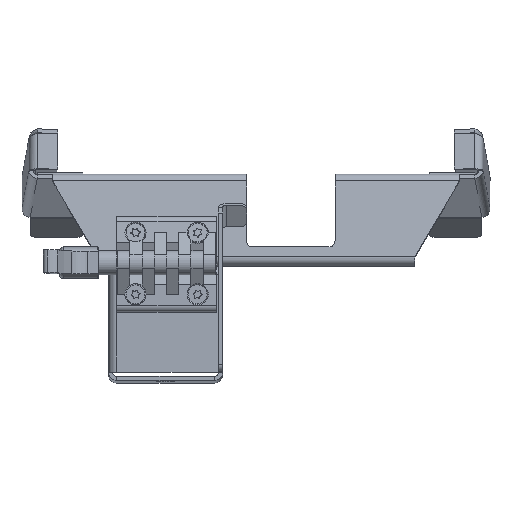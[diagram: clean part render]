
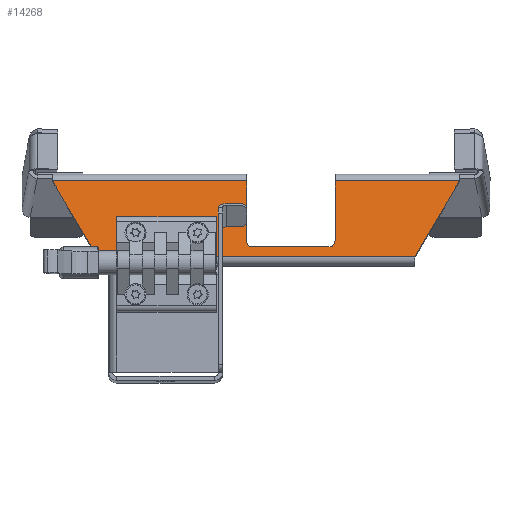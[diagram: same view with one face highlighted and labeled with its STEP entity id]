
A CAD part, front view. The second image highlights one B-rep face of the part: STEP entity #14268.
In plain terms, the highlighted planar face has unit normal (0, -0.982, 0.191) as drawn and (0, -1, 0) by its records, which use the part's own axes.
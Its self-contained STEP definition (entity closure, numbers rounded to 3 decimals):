
#89 = VECTOR ( 'NONE', #14945, 1000. ) ;
#120 = VECTOR ( 'NONE', #5712, 1000. ) ;
#525 = ORIENTED_EDGE ( 'NONE', *, *, #13689, .T. ) ;
#1126 = EDGE_LOOP ( 'NONE', ( #15097, #5215 ) ) ;
#1369 = DIRECTION ( 'NONE',  ( 0., 0., 1. ) ) ;
#1480 = CARTESIAN_POINT ( 'NONE',  ( 146.35, -4., -34. ) ) ;
#1645 = CARTESIAN_POINT ( 'NONE',  ( 143.35, -4., -34. ) ) ;
#1754 = VERTEX_POINT ( 'NONE', #9172 ) ;
#1827 = FACE_OUTER_BOUND ( 'NONE', #11394, .T. ) ;
#2160 = VECTOR ( 'NONE', #11169, 1000. ) ;
#2315 = CIRCLE ( 'NONE', #14091, 3. ) ;
#2394 = DIRECTION ( 'NONE',  ( 1., 0., 0. ) ) ;
#2611 = ORIENTED_EDGE ( 'NONE', *, *, #18063, .T. ) ;
#2631 = DIRECTION ( 'NONE',  ( 0., 0., 1. ) ) ;
#2757 = DIRECTION ( 'NONE',  ( 0., 1., 0. ) ) ;
#2795 = CARTESIAN_POINT ( 'NONE',  ( 0., -4., 0. ) ) ;
#2796 = LINE ( 'NONE', #7767, #120 ) ;
#2882 = DIRECTION ( 'NONE',  ( 0., 0., 1. ) ) ;
#2935 = CIRCLE ( 'NONE', #10791, 3.2 ) ;
#2983 = DIRECTION ( 'NONE',  ( 0., -1., 0. ) ) ;
#3008 = CARTESIAN_POINT ( 'NONE',  ( 78.8, -4., -32. ) ) ;
#3227 = DIRECTION ( 'NONE',  ( 0., 0., 1. ) ) ;
#3333 = CARTESIAN_POINT ( 'NONE',  ( 7.5, -4., -4. ) ) ;
#3394 = PLANE ( 'NONE',  #4426 ) ;
#3475 = CARTESIAN_POINT ( 'NONE',  ( 207.5, -4., -4. ) ) ;
#3478 = VECTOR ( 'NONE', #2394, 1000. ) ;
#3506 = AXIS2_PLACEMENT_3D ( 'NONE', #4633, #4439, #1369 ) ;
#3973 = VERTEX_POINT ( 'NONE', #8396 ) ;
#4104 = VERTEX_POINT ( 'NONE', #17893 ) ;
#4253 = CARTESIAN_POINT ( 'NONE',  ( 105.85, -4., -37. ) ) ;
#4328 = LINE ( 'NONE', #12755, #89 ) ;
#4426 = AXIS2_PLACEMENT_3D ( 'NONE', #2795, #2757, #2631 ) ;
#4439 = DIRECTION ( 'NONE',  ( 0., -1., 0. ) ) ;
#4489 = EDGE_CURVE ( 'NONE', #15004, #4629, #14701, .T. ) ;
#4562 = CARTESIAN_POINT ( 'NONE',  ( 146.35, -4., -37. ) ) ;
#4629 = VERTEX_POINT ( 'NONE', #13410 ) ;
#4633 = CARTESIAN_POINT ( 'NONE',  ( 48.3, -4., -32. ) ) ;
#4723 = FACE_BOUND ( 'NONE', #1126, .T. ) ;
#5074 = EDGE_CURVE ( 'NONE', #4629, #6862, #7514, .T. ) ;
#5088 = CIRCLE ( 'NONE', #3506, 3.2 ) ;
#5215 = ORIENTED_EDGE ( 'NONE', *, *, #12900, .F. ) ;
#5414 = VECTOR ( 'NONE', #18158, 1000. ) ;
#5536 = LINE ( 'NONE', #18476, #5414 ) ;
#5572 = DIRECTION ( 'NONE',  ( 0., 0., 1. ) ) ;
#5592 = CARTESIAN_POINT ( 'NONE',  ( 102.85, -4., -37. ) ) ;
#5610 = CIRCLE ( 'NONE', #6534, 3.2 ) ;
#5712 = DIRECTION ( 'NONE',  ( 1., 0., 0. ) ) ;
#6006 = CARTESIAN_POINT ( 'NONE',  ( 207.5, -4., -4. ) ) ;
#6375 = ORIENTED_EDGE ( 'NONE', *, *, #14259, .F. ) ;
#6437 = DIRECTION ( 'NONE',  ( 0., 0., 1. ) ) ;
#6534 = AXIS2_PLACEMENT_3D ( 'NONE', #3008, #2983, #2882 ) ;
#6552 = EDGE_LOOP ( 'NONE', ( #6375, #11058 ) ) ;
#6731 = CARTESIAN_POINT ( 'NONE',  ( 78.8, -4., -28.8 ) ) ;
#6862 = VERTEX_POINT ( 'NONE', #14458 ) ;
#7514 = LINE ( 'NONE', #5592, #12120 ) ;
#7767 = CARTESIAN_POINT ( 'NONE',  ( 102.85, -4., -37. ) ) ;
#7815 = VERTEX_POINT ( 'NONE', #1480 ) ;
#8183 = VERTEX_POINT ( 'NONE', #6731 ) ;
#8208 = DIRECTION ( 'NONE',  ( 0., 0., 1. ) ) ;
#8396 = CARTESIAN_POINT ( 'NONE',  ( 29.439, -4., -42. ) ) ;
#8513 = FACE_BOUND ( 'NONE', #6552, .T. ) ;
#8546 = CARTESIAN_POINT ( 'NONE',  ( 48.3, -4., -28.8 ) ) ;
#8721 = EDGE_CURVE ( 'NONE', #14691, #8183, #8952, .T. ) ;
#8752 = AXIS2_PLACEMENT_3D ( 'NONE', #10719, #11560, #9233 ) ;
#8952 = CIRCLE ( 'NONE', #8752, 3.2 ) ;
#9009 = DIRECTION ( 'NONE',  ( 0., 1., 0. ) ) ;
#9172 = CARTESIAN_POINT ( 'NONE',  ( 146.35, -4., -4. ) ) ;
#9232 = EDGE_CURVE ( 'NONE', #15004, #15777, #2796, .T. ) ;
#9233 = DIRECTION ( 'NONE',  ( 0., 0., 1. ) ) ;
#9366 = LINE ( 'NONE', #10302, #16499 ) ;
#10094 = ORIENTED_EDGE ( 'NONE', *, *, #9232, .F. ) ;
#10302 = CARTESIAN_POINT ( 'NONE',  ( 207.5, -4., -4. ) ) ;
#10317 = DIRECTION ( 'NONE',  ( 0., 0., 1. ) ) ;
#10347 = VERTEX_POINT ( 'NONE', #16833 ) ;
#10490 = ORIENTED_EDGE ( 'NONE', *, *, #14470, .F. ) ;
#10719 = CARTESIAN_POINT ( 'NONE',  ( 78.8, -4., -32. ) ) ;
#10761 = EDGE_CURVE ( 'NONE', #1754, #13730, #13835, .T. ) ;
#10791 = AXIS2_PLACEMENT_3D ( 'NONE', #14875, #15701, #6437 ) ;
#11058 = ORIENTED_EDGE ( 'NONE', *, *, #8721, .F. ) ;
#11169 = DIRECTION ( 'NONE',  ( 0.5, 0., 0.866 ) ) ;
#11308 = VERTEX_POINT ( 'NONE', #8546 ) ;
#11394 = EDGE_LOOP ( 'NONE', ( #10094, #14011, #15800, #10490, #14433, #525, #13161, #13480, #17571, #2611 ) ) ;
#11560 = DIRECTION ( 'NONE',  ( 0., -1., 0. ) ) ;
#12120 = VECTOR ( 'NONE', #5572, 1000. ) ;
#12223 = LINE ( 'NONE', #6006, #2160 ) ;
#12280 = AXIS2_PLACEMENT_3D ( 'NONE', #13444, #17490, #3227 ) ;
#12755 = CARTESIAN_POINT ( 'NONE',  ( 29.439, -4., -42. ) ) ;
#12900 = EDGE_CURVE ( 'NONE', #10347, #11308, #2935, .T. ) ;
#13161 = ORIENTED_EDGE ( 'NONE', *, *, #17068, .T. ) ;
#13410 = CARTESIAN_POINT ( 'NONE',  ( 102.85, -4., -34. ) ) ;
#13444 = CARTESIAN_POINT ( 'NONE',  ( 105.85, -4., -34. ) ) ;
#13480 = ORIENTED_EDGE ( 'NONE', *, *, #10761, .F. ) ;
#13533 = EDGE_CURVE ( 'NONE', #7815, #1754, #17004, .T. ) ;
#13560 = CARTESIAN_POINT ( 'NONE',  ( 143.35, -4., -37. ) ) ;
#13689 = EDGE_CURVE ( 'NONE', #3973, #4104, #5536, .T. ) ;
#13730 = VERTEX_POINT ( 'NONE', #16885 ) ;
#13835 = LINE ( 'NONE', #3475, #3478 ) ;
#14011 = ORIENTED_EDGE ( 'NONE', *, *, #4489, .T. ) ;
#14019 = DIRECTION ( 'NONE',  ( 1., 0., 0. ) ) ;
#14091 = AXIS2_PLACEMENT_3D ( 'NONE', #1645, #9009, #8208 ) ;
#14259 = EDGE_CURVE ( 'NONE', #8183, #14691, #5610, .T. ) ;
#14268 = ADVANCED_FACE ( 'NONE', ( #8513, #4723, #1827 ), #3394, .F. ) ;
#14433 = ORIENTED_EDGE ( 'NONE', *, *, #14838, .T. ) ;
#14458 = CARTESIAN_POINT ( 'NONE',  ( 102.85, -4., -4. ) ) ;
#14470 = EDGE_CURVE ( 'NONE', #17482, #6862, #9366, .T. ) ;
#14691 = VERTEX_POINT ( 'NONE', #14983 ) ;
#14701 = CIRCLE ( 'NONE', #12280, 3. ) ;
#14838 = EDGE_CURVE ( 'NONE', #17482, #3973, #4328, .T. ) ;
#14875 = CARTESIAN_POINT ( 'NONE',  ( 48.3, -4., -32. ) ) ;
#14945 = DIRECTION ( 'NONE',  ( 0.5, 0., -0.866 ) ) ;
#14983 = CARTESIAN_POINT ( 'NONE',  ( 78.8, -4., -35.2 ) ) ;
#15004 = VERTEX_POINT ( 'NONE', #4253 ) ;
#15097 = ORIENTED_EDGE ( 'NONE', *, *, #16099, .F. ) ;
#15701 = DIRECTION ( 'NONE',  ( 0., -1., 0. ) ) ;
#15777 = VERTEX_POINT ( 'NONE', #13560 ) ;
#15800 = ORIENTED_EDGE ( 'NONE', *, *, #5074, .T. ) ;
#16099 = EDGE_CURVE ( 'NONE', #11308, #10347, #5088, .T. ) ;
#16499 = VECTOR ( 'NONE', #14019, 1000. ) ;
#16833 = CARTESIAN_POINT ( 'NONE',  ( 48.3, -4., -35.2 ) ) ;
#16885 = CARTESIAN_POINT ( 'NONE',  ( 207.5, -4., -4. ) ) ;
#17004 = LINE ( 'NONE', #4562, #17398 ) ;
#17068 = EDGE_CURVE ( 'NONE', #4104, #13730, #12223, .T. ) ;
#17398 = VECTOR ( 'NONE', #10317, 1000. ) ;
#17482 = VERTEX_POINT ( 'NONE', #3333 ) ;
#17490 = DIRECTION ( 'NONE',  ( 0., 1., 0. ) ) ;
#17571 = ORIENTED_EDGE ( 'NONE', *, *, #13533, .F. ) ;
#17893 = CARTESIAN_POINT ( 'NONE',  ( 185.561, -4., -42. ) ) ;
#18063 = EDGE_CURVE ( 'NONE', #7815, #15777, #2315, .T. ) ;
#18158 = DIRECTION ( 'NONE',  ( 1., 0., 0. ) ) ;
#18476 = CARTESIAN_POINT ( 'NONE',  ( 0., -4., -42. ) ) ;
